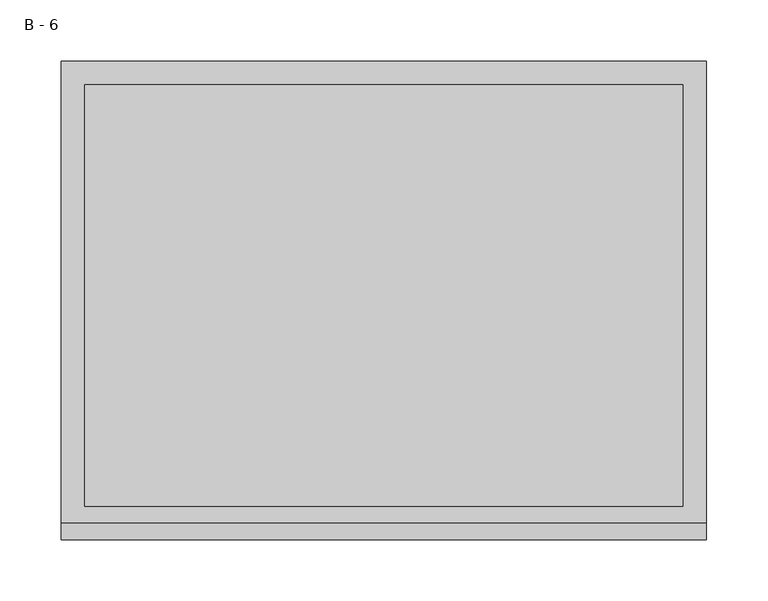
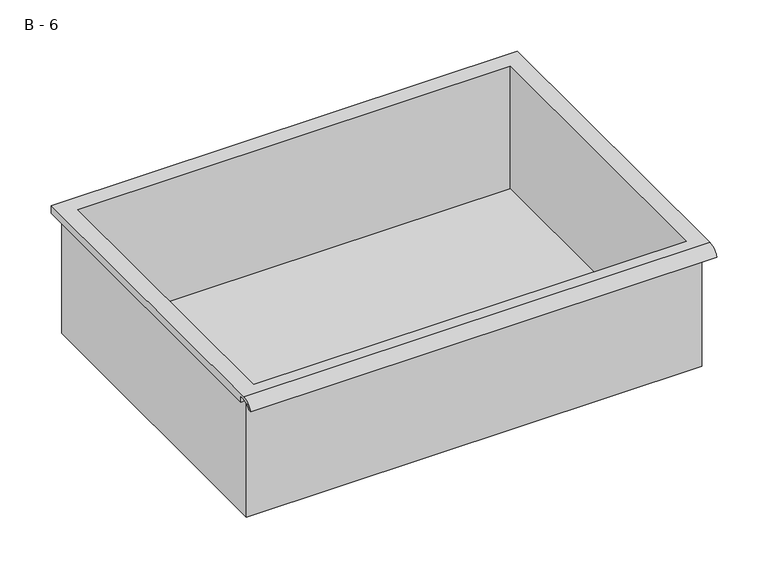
"""IFC4 building model written with IfcOpenShell, lengths in millimetres: furniture geometry, HermanMiller_CoStruc_CO207_Drawer : B - 6."""

from ifc_helpers import new_model, si_unit, frame, origin, place, context, project, spatial, polyline, circle_curve, source, transform, mapped, element, save
from ifc_brep_helpers import plane_surface, cylinder_surface, revolved_surface, advanced_brep


def b_6_8e674aa7(model_context):
    return source(origin(), model_context, "Body", "AdvancedBrep", [
        advanced_brep(
        [(-257.1076517, -176.2125, 342.9), (257.2423483, -176.2125, 342.9), (257.2423483, -176.2125, 482.6), (263.5923483, -176.2125, 482.6), (263.5923483, -176.2125, 488.9071341), (-263.4576517, -176.2125, 488.9071341), (-263.4576517, -176.2125, 482.6), (-257.1076517, -176.2125, 482.6), (257.2423483, 185.7375, 342.9), (-257.1076517, 185.7375, 342.9), (-257.1076517, 185.7375, 482.6), (257.2423483, 185.7375, 482.6), (263.5923483, -181.6070544, 492.125), (263.5923483, 195.2625, 492.125), (-263.4576517, 195.2625, 492.125), (-263.4576517, -181.6070544, 492.125), (244.5423483, -168.275, 492.125), (-244.4076517, -168.275, 492.125), (-244.4076517, 176.2125, 492.125), (244.5423483, 176.2125, 492.125), (263.5923483, -195.2625, 482.6), (263.5923483, -191.8280601, 482.6), (263.5923483, -180.4714815, 488.9071341), (263.5923483, 195.2625, 482.6), (-263.4576517, 195.2625, 482.6), (-263.4576517, -180.4714815, 488.9071341), (-263.4576517, -191.8280601, 482.6), (-263.4576517, -195.2625, 482.6), (-244.4076517, -168.275, 345.9261719), (244.5423483, -168.275, 345.9261719), (244.5423483, 176.2125, 345.9261719), (-244.4076517, 176.2125, 345.9261719)],
        [
            (0, 1),
            (1, 2),
            (2, 3),
            (3, 4),
            (4, 5),
            (5, 6),
            (6, 7),
            (7, 0),
            (8, 9),
            (9, 10),
            (10, 11),
            (11, 8),
            (0, 9),
            (8, 1),
            (11, 2),
            (12, 13),
            (13, 14),
            (14, 15),
            (15, 12),
            (16, 17),
            (17, 18),
            (18, 19),
            (19, 16),
            (7, 10),
            (12, 20, circle_curve(frame((263.5923483, -181.6070544, 477.5739859), z_axis=(1.0, 0.0, 0.0), x_axis=(0.0, 1.0, 0.0)), 14.5510141)),
            (20, 21),
            (21, 22, circle_curve(frame((263.5923483, -181.6070544, 477.5739859), z_axis=(-1.0, 0.0, 0.0), x_axis=(0.0, 1.0, 0.0)), 11.3898979)),
            (22, 4),
            (3, 23),
            (23, 13),
            (14, 24),
            (24, 6),
            (5, 25),
            (25, 26, circle_curve(frame((-263.4576517, -181.6070544, 477.5739859), z_axis=(1.0, 0.0, 0.0), x_axis=(0.0, 1.0, 0.0)), 11.3898979)),
            (26, 27),
            (27, 15, circle_curve(frame((-263.4576517, -181.6070544, 477.5739859), z_axis=(-1.0, 0.0, 0.0), x_axis=(0.0, 1.0, 0.0)), 14.5510141)),
            (27, 20),
            (26, 21),
            (25, 22),
            (24, 23),
            (28, 29),
            (29, 30),
            (30, 31),
            (31, 28),
            (28, 17),
            (16, 29),
            (19, 30),
            (18, 31),
        ],
        [
            plane_surface(frame((257.2423483, -176.2125, 342.9), z_axis=(0.0, -1.0, 0.0), x_axis=(1.0, 0.0, 0.0))),
            plane_surface(frame((257.2423483, 185.7375, 342.9), z_axis=(0.0, 1.0, 0.0), x_axis=(-1.0, 0.0, 0.0))),
            plane_surface(frame((-257.1076517, -176.2125, 342.9), z_axis=(0.0, 0.0, -1.0), x_axis=(0.0, 1.0, 0.0))),
            plane_surface(frame((257.2423483, -176.2125, 342.9), z_axis=(1.0, 0.0, 0.0), x_axis=(0.0, 1.0, 0.0))),
            plane_surface(frame((257.2423483, -176.2125, 492.125), z_axis=(0.0, 0.0, 1.0), x_axis=(0.0, 1.0, 0.0))),
            plane_surface(frame((-257.1076517, -176.2125, 492.125), z_axis=(-1.0, 0.0, 0.0), x_axis=(0.0, 1.0, 0.0))),
            plane_surface(frame((263.5923483, 195.2625, 492.125), z_axis=(1.0, 0.0, 0.0), x_axis=(0.0, -1.0, 0.0))),
            plane_surface(frame((-263.4576517, 195.2625, 492.125), z_axis=(-1.0, 0.0, 0.0), x_axis=(0.0, 1.0, 0.0))),
            cylinder_surface(frame((-263.4576517, -181.6070544, 477.5739859), z_axis=(1.0, 0.0, 0.0), x_axis=(0.0, 1.0, 0.0)), 14.5510141),
            plane_surface(frame((263.5923483, -195.2625, 482.6), z_axis=(0.0, -7.251821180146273e-12, -1.0), x_axis=(-1.0, 0.0, 0.0))),
            revolved_surface(polyline([(-263.4576517, -170.21715650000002, 477.5739859), (263.59234829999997, -170.21715650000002, 477.5739859)]), (-263.4576517, -181.6070544, 477.5739859), (-1.0, 0.0, 0.0)),
            plane_surface(frame((263.5923483, -180.4714815, 488.9071341), z_axis=(0.0, -1.797264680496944e-11, -1.0), x_axis=(-1.0, 0.0, 0.0))),
            plane_surface(frame((263.5923483, -176.2125, 482.6), z_axis=(0.0, 0.0, -1.0), x_axis=(-1.0, 0.0, 0.0))),
            plane_surface(frame((263.5923483, 195.2625, 482.6), z_axis=(0.0, 1.0, 0.0), x_axis=(-1.0, 0.0, 0.0))),
            plane_surface(frame((244.5423483, -168.275, 345.9261719), z_axis=(0.0, 0.0, 1.0), x_axis=(-1.0, 0.0, 0.0))),
            plane_surface(frame((-244.4076517, -168.275, 492.125), z_axis=(0.0, 1.0, 0.0), x_axis=(0.0, 0.0, -1.0))),
            plane_surface(frame((244.5423483, -168.275, 492.125), z_axis=(-1.0, 0.0, 0.0), x_axis=(0.0, 0.0, -1.0))),
            plane_surface(frame((244.5423483, 176.2125, 492.125), z_axis=(0.0, -1.0, 0.0), x_axis=(0.0, 0.0, -1.0))),
            plane_surface(frame((-244.4076517, 176.2125, 492.125), z_axis=(1.0, 0.0, 0.0), x_axis=(0.0, 0.0, -1.0))),
        ],
        [
            (0, [[1, 2, 3, 4, 5, 6, 7, 8]]),
            (1, [[9, 10, 11, 12]]),
            (2, [[-1, 13, -9, 14]]),
            (3, [[-14, -12, 15, -2]]),
            (4, [[16, 17, 18, 19], [20, 21, 22, 23]]),
            (5, [[-13, -8, 24, -10]]),
            (6, [[-16, 25, 26, 27, 28, -4, 29, 30]]),
            (7, [[31, 32, -6, 33, 34, 35, 36, -18]]),
            (8, [[-25, -19, -36, 37]]),
            (9, [[-26, -37, -35, 38]]),
            (10, [[-27, -38, -34, 39]]),
            (11, [[-28, -39, -33, -5]]),
            (12, [[-29, -3, -15, -11, -24, -7, -32, 40]]),
            (13, [[-30, -40, -31, -17]]),
            (14, [[41, 42, 43, 44]]),
            (15, [[-41, 45, -20, 46]]),
            (16, [[-42, -46, -23, 47]]),
            (17, [[-43, -47, -22, 48]]),
            (18, [[-44, -48, -21, -45]]),
        ],
    ),
    ])


if __name__ == "__main__":
    model = new_model("IFC4")
    model_context = context("Model", 3, world=origin())
    ifc_project = project(units=[si_unit("LENGTHUNIT", "METRE", prefix="MILLI")], contexts=[model_context])
    site = spatial("IfcSite", under=ifc_project)
    building = spatial("IfcBuilding", under=site)
    placement = place(None, origin())
    b_6_shape = b_6_8e674aa7(model_context)
    element("IfcFurniture", 1, ObjectType="HermanMiller_CoStruc_CO207_Drawer : B - 6", at=placement, inside=building, context=model_context, shape_type="MappedRepresentation", body=[
        mapped(b_6_shape, transform((0.0, 0.0, 0.0), x_axis=(1.0, 0.0, 0.0), y_axis=(0.0, 1.0, 0.0), z_axis=(0.0, 0.0, 1.0))),
    ])
    save(model, "model.ifc")
